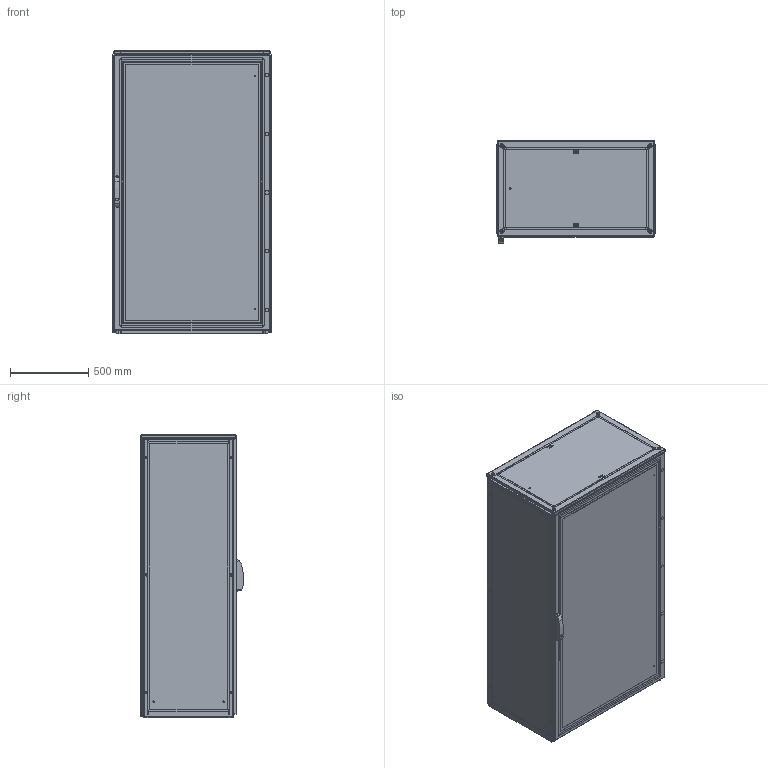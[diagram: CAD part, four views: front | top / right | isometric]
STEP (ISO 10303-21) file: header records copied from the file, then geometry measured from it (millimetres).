
FILE_DESCRIPTION(/* description */ ('STEP AP214'),/* implementation_level */ '2;1');
FILE_NAME(/* name */ 'ENUX101806PR-LOD350',/* time_stamp */ '2025-10-03T14:10:12+02:00',/* author */ ('License CC BY-ND 4.0'),/* organization */ ('CADENAS'),/* preprocessor_version */ 'ST-DEVELOPER v19.3',/* originating_system */ 'PARTsolutions',/* authorisation */ ' ');
FILE_SCHEMA (('AUTOMOTIVE_DESIGN {1 0 10303 214 3 1 1}'));
Length unit declared in the file: millimetre
Products named in the file (11): ENUX101806PR-LOD350; ENUX101806PR-LOD350_CON; ENUX101806PR-LOD350_floor1; ENUX101806PR-LOD350_floor2; Screw M12x30 architecture 350; ENUX101806PR-LOD350_side; ENUX101806PR-LOD350_top; ENUX101806PR-LOD350_back_door_r; ENUX101806PR-LOD350_back_door_l; ENUX101806PR-LOD350_door; ENUX101806PR-LOD350_handle
Assembly tree (22 placements, depth 2):
  ENUX101806PR-LOD350
    ENUX101806PR-LOD350_CON
    ENUX101806PR-LOD350_floor1  x4
    ENUX101806PR-LOD350_floor2  x6
    Screw M12x30 architecture 350  x4
    ENUX101806PR-LOD350_side  x2
    ENUX101806PR-LOD350_top
    ENUX101806PR-LOD350_back_door_r
    ENUX101806PR-LOD350_back_door_l
    ENUX101806PR-LOD350_door
    ENUX101806PR-LOD350_handle
Bounding box: 1012 x 657 x 1814.1 mm (x, y, z)
Volume: 25297504.6 mm3; surface area: 20351008.6 mm2
Topology: 22 solids, 22 shells, 2279 faces, 6332 edges, 4125 vertices
Faces by surface type: plane 1187, cylinder 892, cone 95, torus 88, sphere 17
Full cylindrical faces by diameter (mm): 4.5 x144, 6 x20, 6.8 x8, 7 x4, 9 x11, 12 x16, 13 x4, 14 x2, 17 x2, 18 x1, 21 x4, 28 x2
Entity records: 55057 total; most frequent: DIRECTION 9553, CARTESIAN_POINT 9507, ORIENTED_EDGE 8900, EDGE_CURVE 4450, AXIS2_PLACEMENT_3D 3423, VERTEX_POINT 3120, LINE 2707, VECTOR 2707
